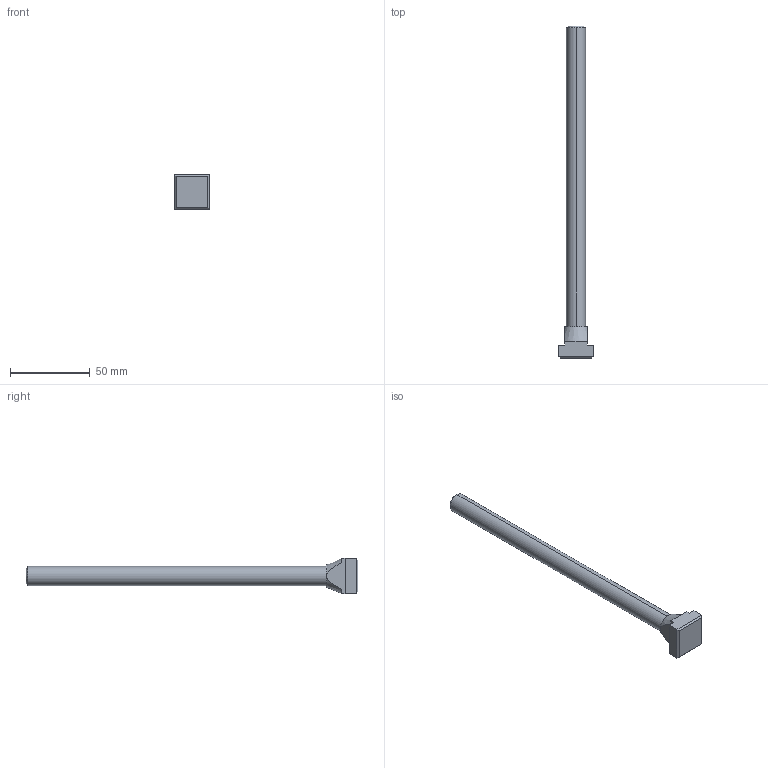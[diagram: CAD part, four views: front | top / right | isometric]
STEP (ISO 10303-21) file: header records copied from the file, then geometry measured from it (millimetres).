
FILE_DESCRIPTION (( 'STEP AP203' ), '1' );
FILE_NAME ('Wiberger-din787_14-m12x200.step', '2016-07-01T13:16:40', ( 'Magnus' ), ( 'Microsoft' ), 'SwSTEP 2.0', 'SolidWorks 2016', '' );
FILE_SCHEMA (( 'CONFIG_CONTROL_DESIGN' ));
Length unit declared in the file: millimetre
Products named in the file (1): Wiberger-din787_14-m12x200
Bounding box: 22 x 208 x 22 mm (x, y, z)
Volume: 27912.7 mm3; surface area: 9270 mm2
Topology: 1 solids, 1 shells, 27 faces, 66 edges, 42 vertices
Faces by surface type: plane 17, cone 5, cylinder 5
Entity records: 931 total; most frequent: CARTESIAN_POINT 218, ORIENTED_EDGE 132, DIRECTION 130, EDGE_CURVE 66, AXIS2_PLACEMENT_3D 44, VECTOR 42, VERTEX_POINT 42, LINE 42
